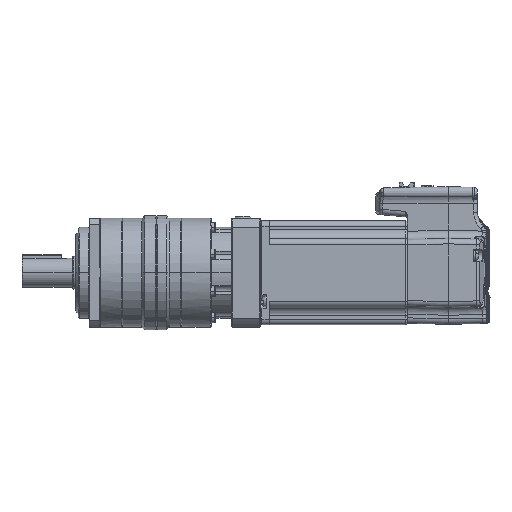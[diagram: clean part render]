
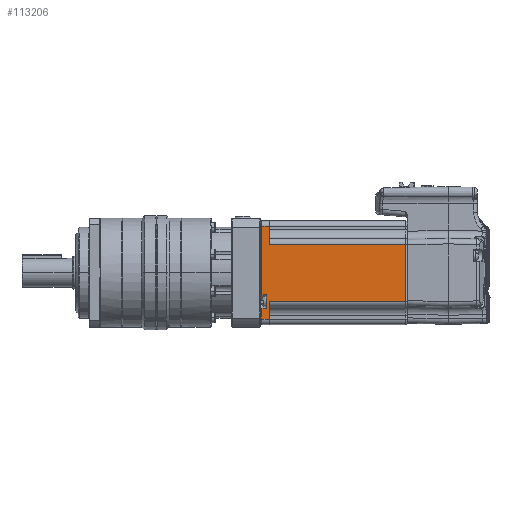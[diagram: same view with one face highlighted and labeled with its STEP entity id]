
A CAD part, left-side view. The second image highlights one B-rep face of the part: STEP entity #113206.
In plain terms, the highlighted planar face has unit normal (-1, 0, 0).
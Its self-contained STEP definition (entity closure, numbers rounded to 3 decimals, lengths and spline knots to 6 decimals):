
#11700 = CARTESIAN_POINT ( 'NONE',  ( -0.028519, 0.0085, 0.01577 ) ) ;
#12131 = CARTESIAN_POINT ( 'NONE',  ( -0.028519, 0.0085, -0.01577 ) ) ;
#14165 = LINE ( 'NONE', #46809, #14169 ) ;
#14167 = LINE ( 'NONE', #46839, #14173 ) ;
#14169 = VECTOR ( 'NONE', #46811, 1. ) ;
#14173 = VECTOR ( 'NONE', #46843, 1. ) ;
#14263 = LINE ( 'NONE', #46995, #14281 ) ;
#14265 = LINE ( 'NONE', #46989, #14271 ) ;
#14269 = LINE ( 'NONE', #46991, #14275 ) ;
#14271 = VECTOR ( 'NONE', #46990, 1. ) ;
#14275 = VECTOR ( 'NONE', #46992, 1. ) ;
#14281 = VECTOR ( 'NONE', #46984, 1. ) ;
#14897 = LINE ( 'NONE', #49679, #14927 ) ;
#14911 = LINE ( 'NONE', #49674, #14917 ) ;
#14915 = LINE ( 'NONE', #49676, #14921 ) ;
#14917 = VECTOR ( 'NONE', #49675, 1. ) ;
#14921 = VECTOR ( 'NONE', #49677, 1. ) ;
#14925 = LINE ( 'NONE', #49683, #14931 ) ;
#14927 = VECTOR ( 'NONE', #49670, 1. ) ;
#14931 = VECTOR ( 'NONE', #49684, 1. ) ;
#15043 = LINE ( 'NONE', #50591, #15053 ) ;
#15053 = VECTOR ( 'NONE', #50594, 1. ) ;
#15060 = LINE ( 'NONE', #50647, #15063 ) ;
#15063 = VECTOR ( 'NONE', #50652, 1. ) ;
#15147 = LINE ( 'NONE', #51814, #15150 ) ;
#15150 = VECTOR ( 'NONE', #51818, 1. ) ;
#40056 = FACE_OUTER_BOUND ( 'NONE', #89939, .T. ) ;
#46809 = CARTESIAN_POINT ( 'NONE',  ( -0.028519, 0.0085, 0.01577 ) ) ;
#46811 = DIRECTION ( 'NONE',  ( 0., 0., -1. ) ) ;
#46839 = CARTESIAN_POINT ( 'NONE',  ( -0.028519, 0.0075, 0.01577 ) ) ;
#46843 = DIRECTION ( 'NONE',  ( 0., 1., 0. ) ) ;
#46984 = DIRECTION ( 'NONE',  ( 0., 1., 0. ) ) ;
#46989 = CARTESIAN_POINT ( 'NONE',  ( -0.028519, 0.0875, -0.0285 ) ) ;
#46990 = DIRECTION ( 'NONE',  ( 0., 0., -1. ) ) ;
#46991 = CARTESIAN_POINT ( 'NONE',  ( -0.028519, 0.085, -0.0285 ) ) ;
#46992 = DIRECTION ( 'NONE',  ( 0., 0., -1. ) ) ;
#46995 = CARTESIAN_POINT ( 'NONE',  ( -0.028519, 0.0075, 0.0255 ) ) ;
#49670 = DIRECTION ( 'NONE',  ( 0., 0., -1. ) ) ;
#49674 = CARTESIAN_POINT ( 'NONE',  ( -0.028519, 0.0075, -0.0255 ) ) ;
#49675 = DIRECTION ( 'NONE',  ( 0., -1., 0. ) ) ;
#49676 = CARTESIAN_POINT ( 'NONE',  ( -0.028519, 0.0075, -0.0196 ) ) ;
#49677 = DIRECTION ( 'NONE',  ( 0., 1., 0. ) ) ;
#49679 = CARTESIAN_POINT ( 'NONE',  ( -0.028519, 0.0875, -0.0285 ) ) ;
#49683 = CARTESIAN_POINT ( 'NONE',  ( -0.028519, 0.0835, -0.0285 ) ) ;
#49684 = DIRECTION ( 'NONE',  ( 0., 0., 1. ) ) ;
#50591 = CARTESIAN_POINT ( 'NONE',  ( -0.028519, 0.0835, -0.01577 ) ) ;
#50594 = DIRECTION ( 'NONE',  ( 0., 1., 0. ) ) ;
#50647 = CARTESIAN_POINT ( 'NONE',  ( -0.028519, 0.0075, -0.0122 ) ) ;
#50652 = DIRECTION ( 'NONE',  ( 0., -1., 0. ) ) ;
#51814 = CARTESIAN_POINT ( 'NONE',  ( -0.028519, 0.0835, -0.0285 ) ) ;
#51818 = DIRECTION ( 'NONE',  ( 0., 0., 1. ) ) ;
#76145 = AXIS2_PLACEMENT_3D ( 'NONE', #95251, #95246, #95258 ) ;
#89939 = EDGE_LOOP ( 'NONE', ( #116135, #116131, #116125, #116120, #116114, #116108, #116101, #116095, #116090, #116085, #116082, #116075 ) ) ;
#90994 = VERTEX_POINT ( 'NONE', #168071 ) ;
#91016 = VERTEX_POINT ( 'NONE', #168079 ) ;
#91483 = VERTEX_POINT ( 'NONE', #168175 ) ;
#91489 = VERTEX_POINT ( 'NONE', #168185 ) ;
#91491 = VERTEX_POINT ( 'NONE', #168190 ) ;
#91501 = VERTEX_POINT ( 'NONE', #168198 ) ;
#91506 = VERTEX_POINT ( 'NONE', #168199 ) ;
#91535 = VERTEX_POINT ( 'NONE', #168256 ) ;
#91543 = VERTEX_POINT ( 'NONE', #168276 ) ;
#91546 = VERTEX_POINT ( 'NONE', #168261 ) ;
#91652 = VERTEX_POINT ( 'NONE', #11700 ) ;
#92110 = VERTEX_POINT ( 'NONE', #12131 ) ;
#95246 = DIRECTION ( 'NONE',  ( -1., 0., 0. ) ) ;
#95251 = CARTESIAN_POINT ( 'NONE',  ( -0.028519, 0.0075, -0.0285 ) ) ;
#95254 = PLANE ( 'NONE',  #76145 ) ;
#95258 = DIRECTION ( 'NONE',  ( 0., 0., 1. ) ) ;
#113206 = ADVANCED_FACE ( 'NONE', ( #40056 ), #95254, .T. ) ;
#116075 = ORIENTED_EDGE ( 'NONE', *, *, #150812, .F. ) ;
#116082 = ORIENTED_EDGE ( 'NONE', *, *, #150902, .T. ) ;
#116085 = ORIENTED_EDGE ( 'NONE', *, *, #150745, .T. ) ;
#116090 = ORIENTED_EDGE ( 'NONE', *, *, #150462, .T. ) ;
#116095 = ORIENTED_EDGE ( 'NONE', *, *, #150746, .T. ) ;
#116101 = ORIENTED_EDGE ( 'NONE', *, *, #150463, .T. ) ;
#116108 = ORIENTED_EDGE ( 'NONE', *, *, #150818, .T. ) ;
#116114 = ORIENTED_EDGE ( 'NONE', *, *, #150748, .T. ) ;
#116120 = ORIENTED_EDGE ( 'NONE', *, *, #150465, .T. ) ;
#116125 = ORIENTED_EDGE ( 'NONE', *, *, #150749, .T. ) ;
#116131 = ORIENTED_EDGE ( 'NONE', *, *, #150427, .T. ) ;
#116135 = ORIENTED_EDGE ( 'NONE', *, *, #150426, .F. ) ;
#150426 = EDGE_CURVE ( 'NONE', #91652, #92110, #14165, .T. ) ;
#150427 = EDGE_CURVE ( 'NONE', #91652, #91489, #14167, .T. ) ;
#150462 = EDGE_CURVE ( 'NONE', #91491, #90994, #14265, .T. ) ;
#150463 = EDGE_CURVE ( 'NONE', #91506, #91535, #14269, .T. ) ;
#150465 = EDGE_CURVE ( 'NONE', #91483, #91016, #14263, .T. ) ;
#150745 = EDGE_CURVE ( 'NONE', #90994, #91546, #14911, .T. ) ;
#150746 = EDGE_CURVE ( 'NONE', #91535, #91491, #14915, .T. ) ;
#150748 = EDGE_CURVE ( 'NONE', #91016, #91501, #14897, .T. ) ;
#150749 = EDGE_CURVE ( 'NONE', #91489, #91483, #14925, .T. ) ;
#150812 = EDGE_CURVE ( 'NONE', #92110, #91543, #15043, .T. ) ;
#150818 = EDGE_CURVE ( 'NONE', #91501, #91506, #15060, .T. ) ;
#150902 = EDGE_CURVE ( 'NONE', #91546, #91543, #15147, .T. ) ;
#168071 = CARTESIAN_POINT ( 'NONE',  ( -0.028519, 0.0875, -0.0255 ) ) ;
#168079 = CARTESIAN_POINT ( 'NONE',  ( -0.028519, 0.0875, 0.0255 ) ) ;
#168175 = CARTESIAN_POINT ( 'NONE',  ( -0.028519, 0.0835, 0.0255 ) ) ;
#168185 = CARTESIAN_POINT ( 'NONE',  ( -0.028519, 0.0835, 0.01577 ) ) ;
#168190 = CARTESIAN_POINT ( 'NONE',  ( -0.028519, 0.0875, -0.0196 ) ) ;
#168198 = CARTESIAN_POINT ( 'NONE',  ( -0.028519, 0.0875, -0.0122 ) ) ;
#168199 = CARTESIAN_POINT ( 'NONE',  ( -0.028519, 0.085, -0.0122 ) ) ;
#168256 = CARTESIAN_POINT ( 'NONE',  ( -0.028519, 0.085, -0.0196 ) ) ;
#168261 = CARTESIAN_POINT ( 'NONE',  ( -0.028519, 0.0835, -0.0255 ) ) ;
#168276 = CARTESIAN_POINT ( 'NONE',  ( -0.028519, 0.0835, -0.01577 ) ) ;
